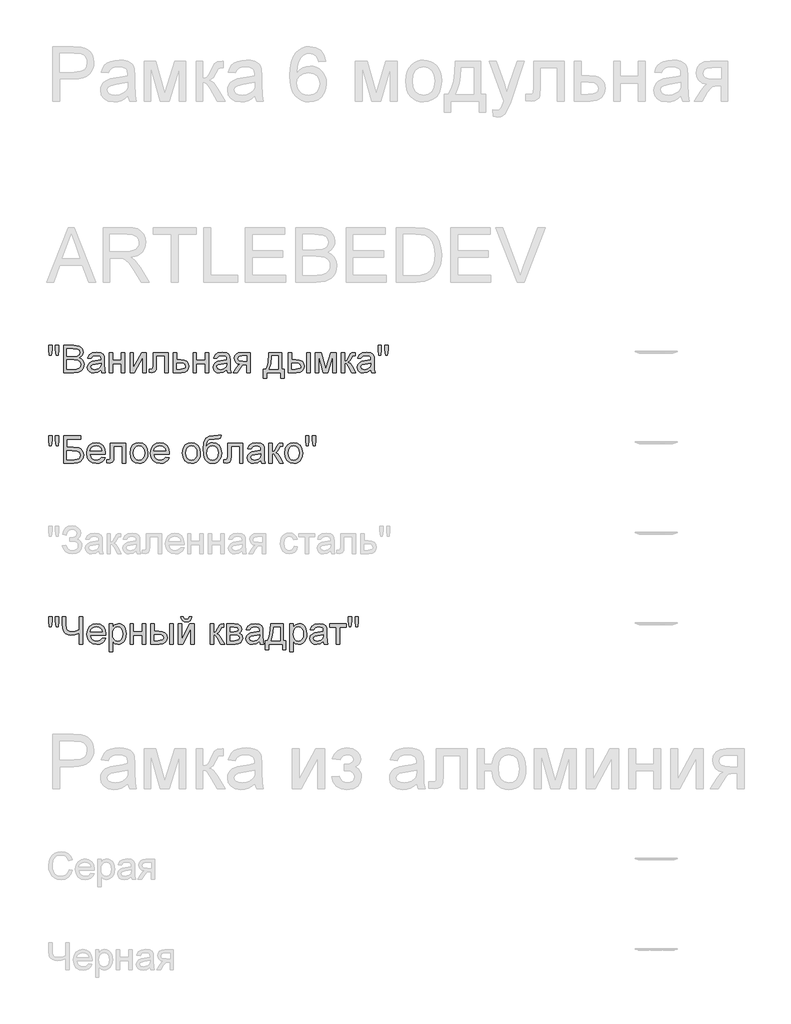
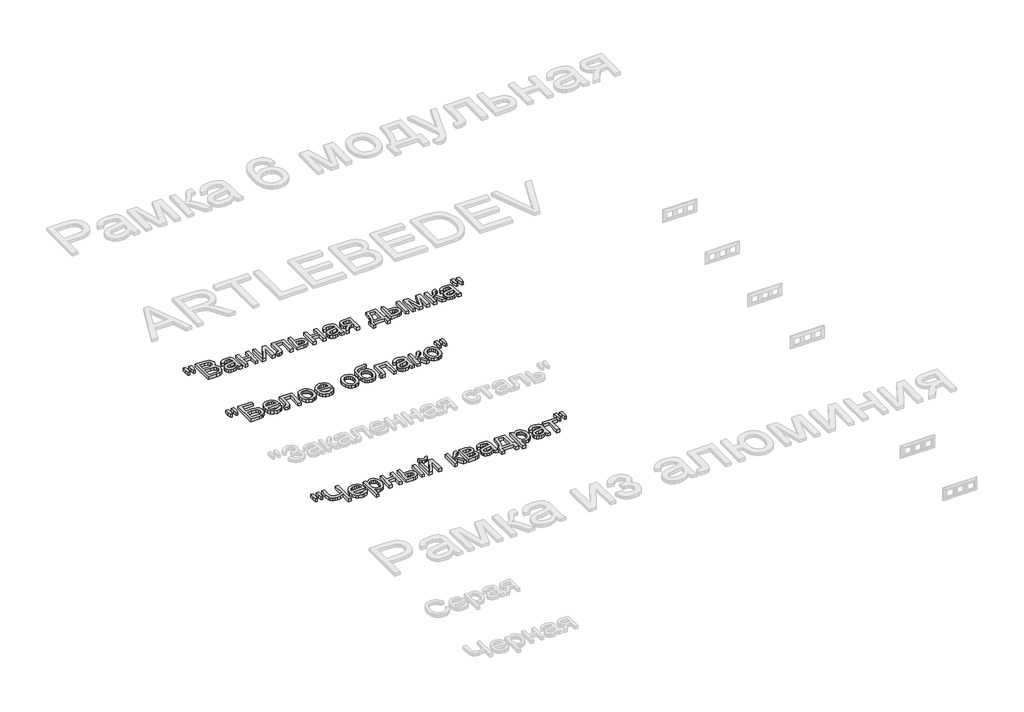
# One storey, part 128 of 168: 3 proxies.
"""IFC4 building model written with IfcOpenShell, lengths in millimetres."""

import ifcopenshell
import ifcopenshell.guid

model = None  # the IFC model being written
_history = None  # IfcOwnerHistory: only IFC2X3 demands one
_inside = {}  # id of a spatial element -> (the spatial element, [elements in it])
_under = {}  # id of a project, library or spatial element -> (it, [spatial elements below it])
_declared = {}  # id of a project -> (the project, [libraries it declares])
_typed = {}  # id of a type object -> (the type object, [elements of that type])
_made_of = {}  # id of a material, layer set ... -> (it, [elements and type objects made of it])


def new_model(schema):
    """Start an empty IFC model of exactly this schema.

    Asked for "IFC4X3", IfcOpenShell would pick the latest addendum, in which some entities
    have other attributes; the version numbers below select the first issue.
    IFC2X3 requires an IfcOwnerHistory on every rooted entity: one is made here for all.
    """
    global model, _history
    if schema == "IFC4X3":
        model = ifcopenshell.file(schema_version=(4, 3, 0, 0))
    else:
        model = ifcopenshell.file(schema=schema)
    _inside.clear()
    _under.clear()
    _declared.clear()
    _typed.clear()
    _made_of.clear()
    _history = None
    if model.schema == "IFC2X3":
        org = make("IfcOrganization", Name="unknown")
        user = make(
            "IfcPersonAndOrganization",
            ThePerson=make("IfcPerson", FamilyName="unknown"),
            TheOrganization=org,
        )
        app = make(
            "IfcApplication",
            ApplicationDeveloper=org,
            Version="unknown",
            ApplicationFullName="unknown",
            ApplicationIdentifier="unknown",
        )
        _history = make(
            "IfcOwnerHistory",
            OwningUser=user,
            OwningApplication=app,
            ChangeAction="ADDED",
            CreationDate=0,
        )
    return model


def make(cls, **values):
    """One entity of the class cls with the attributes given. An attribute that is None is left unset."""
    return model.create_entity(
        cls, **{name: value for name, value in values.items() if value is not None}
    )


def rooted(cls, **values):
    """An entity with a GlobalId (a new one), such as an element, a storey or a relation."""
    return make(cls, GlobalId=ifcopenshell.guid.new(), OwnerHistory=_history, **values)


def si_unit(unit_type, name, prefix=None):
    """IfcSIUnit, for example si_unit("LENGTHUNIT", "METRE", prefix="MILLI")."""
    return make("IfcSIUnit", UnitType=unit_type, Prefix=prefix, Name=name)


def assignment(units):
    """IfcUnitAssignment: the units of a project."""
    return None if units is None else make("IfcUnitAssignment", Units=units)


def point(xyz):
    """IfcCartesianPoint."""
    return None if xyz is None else make("IfcCartesianPoint", Coordinates=xyz)


def direction(xyz):
    """IfcDirection."""
    return None if xyz is None else make("IfcDirection", DirectionRatios=xyz)


def frame(location, z_axis=None, x_axis=None):
    """IfcAxis2Placement3D, a coordinate frame: its origin and axes. An axis left out is left unset."""
    return make(
        "IfcAxis2Placement3D",
        Location=point(location),
        Axis=direction(z_axis),
        RefDirection=direction(x_axis),
    )


def origin():
    """The frame at (0, 0, 0) with its axes left unset."""
    return frame((0.0, 0.0, 0.0))


def origin_with_axes():
    """The frame at (0, 0, 0) with the z axis (0, 0, 1) and the x axis (1, 0, 0) written out."""
    return frame((0.0, 0.0, 0.0), z_axis=(0.0, 0.0, 1.0), x_axis=(1.0, 0.0, 0.0))


def place(relative_to, where):
    """IfcLocalPlacement: puts the frame where relative to a parent placement (None: the world)."""
    return make(
        "IfcLocalPlacement", PlacementRelTo=relative_to, RelativePlacement=where
    )


def context(
    kind, dimensions, precision=None, world=None, true_north=None, identifier=None
):
    """IfcGeometricRepresentationContext, for example the 3D "Model" context."""
    return make(
        "IfcGeometricRepresentationContext",
        ContextIdentifier=identifier,
        ContextType=kind,
        CoordinateSpaceDimension=dimensions,
        Precision=precision,
        WorldCoordinateSystem=world,
        TrueNorth=true_north,
    )


def project(units=None, contexts=None):
    """IfcProject with its units and contexts."""
    return rooted(
        "IfcProject",
        Name="project",
        RepresentationContexts=contexts,
        UnitsInContext=assignment(units),
    )


def spatial(cls, under=None, at=None, **own):
    """A site, building, storey or space (cls), placed at a placement, below another one or the project."""
    s = rooted(cls, ObjectPlacement=at, **own)
    if under is not None:
        _under.setdefault(under.id(), (under, []))[1].append(s)
    return s


def polyline(points):
    """IfcPolyline through the points."""
    return make("IfcPolyline", Points=[point(p) for p in points])


def outline(outer, holes=None, kind="AREA"):
    """IfcArbitraryClosedProfileDef: a profile drawn as a closed curve; with holes, ...WithVoids."""
    if holes is None:
        return make("IfcArbitraryClosedProfileDef", ProfileType=kind, OuterCurve=outer)
    return make(
        "IfcArbitraryProfileDefWithVoids",
        ProfileType=kind,
        OuterCurve=outer,
        InnerCurves=holes,
    )


def extrude(swept, where, along, depth):
    """IfcExtrudedAreaSolid: the profile swept, set in the frame where, extruded along a direction by depth."""
    return make(
        "IfcExtrudedAreaSolid",
        SweptArea=swept,
        Position=where,
        ExtrudedDirection=direction(along),
        Depth=depth,
    )


def shape(context_of_items, identifier, shape_type, items):
    """IfcShapeRepresentation: the items that make up one representation, for example the "Body"."""
    return make(
        "IfcShapeRepresentation",
        ContextOfItems=context_of_items,
        RepresentationIdentifier=identifier,
        RepresentationType=shape_type,
        Items=items,
    )


def made_of(thing, what):
    """Note that an element or type object is made of a material, layer set ...; save() writes the relation."""
    if what is not None:
        _made_of.setdefault(what.id(), (what, []))[1].append(thing)
    return thing


def element(
    cls,
    number,
    at=None,
    inside=None,
    cuts=None,
    type_object=None,
    material=None,
    context=None,
    identifier="Body",
    shape_type=None,
    held_by="IfcProductDefinitionShape",
    body=None,
    shapes=None,
    **own,
):
    """One element of the class cls, such as IfcWall. Its Tag is "e" and its number.

    at: its placement. inside: the storey or other place that contains it. cuts: it is an
    opening in that element (IfcRelVoidsElement). A single representation is given by context,
    identifier, shape_type and body (its items); several are given by shapes. held_by: the class
    of the entity that holds the representations. save() writes the other relations.
    """
    e = rooted(cls, Tag="e%d" % number, ObjectPlacement=at, **own)
    if body is not None:
        shapes = [shape(context, identifier, shape_type, body)]
    if shapes is not None:
        e.Representation = make(held_by, Representations=shapes)
    if inside is not None:
        _inside.setdefault(inside.id(), (inside, []))[1].append(e)
    if cuts is not None:
        rooted(
            "IfcRelVoidsElement", RelatingBuildingElement=cuts, RelatedOpeningElement=e
        )
    if type_object is not None:
        _typed.setdefault(type_object.id(), (type_object, []))[1].append(e)
    return made_of(e, material)


def aggregate(whole, parts):
    """IfcRelAggregates: a whole, such as a stair, and the parts it consists of."""
    return rooted("IfcRelAggregates", RelatingObject=whole, RelatedObjects=parts)


def save(model, path):
    """Write the relations noted so far, then the file.

    IfcRelAggregates (storeys below a building ...), IfcRelContainedInSpatialStructure (elements
    in a storey), IfcRelDefinesByType, IfcRelAssociatesMaterial and IfcRelDeclares: one each for
    every whole, place, type object, material and project.
    """
    for whole, parts in _under.values():
        aggregate(whole, parts)
    for where, things in _inside.values():
        rooted(
            "IfcRelContainedInSpatialStructure",
            RelatedElements=things,
            RelatingStructure=where,
        )
    for kind, things in _typed.values():
        rooted("IfcRelDefinesByType", RelatedObjects=things, RelatingType=kind)
    for what, things in _made_of.values():
        rooted("IfcRelAssociatesMaterial", RelatedObjects=things, RelatingMaterial=what)
    for by, libraries in _declared.values():
        rooted("IfcRelDeclares", RelatingContext=by, RelatedDefinitions=libraries)
    model.write(path)


model = new_model("IFC4")

# Units and contexts
model_context = context("Model", 3, world=origin())
ifc_project = project(units=[si_unit("LENGTHUNIT", "METRE", prefix="MILLI")], contexts=[model_context])

# Site, building, storey
site = spatial("IfcSite", under=ifc_project)
building = spatial("IfcBuilding", under=site)
storey = spatial("IfcBuildingStorey", under=building, Name="Этаж 01", Elevation=0.0)

# Proxies
placement = place(None, origin())
element("IfcBuildingElementProxy", 1, Name="150", ObjectType="150", at=placement, inside=storey, context=model_context, shape_type="SweptSolid", body=[
    extrude(outline(polyline([(47680.1485789, -6451.873446), (47675.550054, -6422.7739802), (47675.550054, -6397.7212163), (47694.3856121, -6397.7212163), (47694.3856121, -6422.7739802), (47690.2653338, -6451.873446), (47680.1485789, -6451.873446)])), origin_with_axes(), (0.0, 0.0, 1.0), 20.0),
    extrude(outline(polyline([(47717.7093306, -6451.873446), (47713.2211703, -6422.7739802), (47713.2211703, -6397.7212163), (47732.0567284, -6397.7212163), (47732.0567284, -6422.7739802), (47727.6421445, -6451.873446), (47717.7093306, -6451.873446)])), origin_with_axes(), (0.0, 0.0, 1.0), 20.0),
    extrude(outline(polyline([(47757.9556209, -6548.4056816), (47757.9556209, -6397.7212163), (47815.4555767, -6397.7212163), (47843.6169435, -6402.1541944), (47853.0807078, -6407.7781904), (47860.2452096, -6415.7842223), (47866.2600803, -6435.0612389), (47861.2017028, -6452.6643923), (47845.9162059, -6466.0001146), (47856.5893823, -6471.5735269), (47864.4758526, -6480.0532069), (47869.3456905, -6490.8781346), (47870.9689698, -6503.48729), (47866.5359918, -6523.7391938), (47855.5547142, -6538.160168), (47839.1655713, -6545.8121135), (47815.0141183, -6548.4056816), (47757.9556209, -6548.4056816)]), holes=[polyline([(47776.791179, -6458.9367803), (47811.1881456, -6458.9367803), (47831.2745025, -6457.3180996), (47843.3594261, -6450.3467358), (47847.4245221, -6438.0778712), (47843.6353376, -6425.7906126), (47832.7828187, -6418.5249432), (47808.5761834, -6416.5567745), (47776.791179, -6416.5567745), (47776.791179, -6458.9367803)]), polyline([(47776.791179, -6529.5701234), (47815.4187885, -6529.5701234), (47829.3983043, -6528.8343594), (47841.2257105, -6524.7324752), (47849.061597, -6516.3631598), (47852.1334117, -6503.671231), (47848.5281681, -6489.0295275), (47836.8479148, -6480.2923302), (47813.5793786, -6477.7723385), (47776.791179, -6477.7723385), (47776.791179, -6529.5701234)])]), origin_with_axes(), (0.0, 0.0, 1.0), 20.0),
    extrude(outline(polyline([(47965.1467606, -6534.279013), (47946.8814195, -6547.0445182), (47926.7030921, -6550.7601263), (47910.9623412, -6548.5252432), (47899.3510657, -6541.8205939), (47892.1911624, -6531.6394596), (47889.804528, -6518.975122), (47893.4097715, -6504.0759012), (47902.8827329, -6493.2601705), (47916.0713024, -6487.079753), (47932.3684748, -6484.2470616), (47965.036396, -6477.7723385), (47965.1467606, -6473.5784838), (47963.8499765, -6465.1723802), (47959.9596244, -6459.6725443), (47951.2592153, -6455.5890542), (47939.1375035, -6454.2278908), (47920.0812162, -6457.8515285), (47910.9945309, -6470.7090042), (47892.1589727, -6468.3545594), (47900.3075589, -6449.9604597), (47916.7150959, -6439.1815172), (47941.5655247, -6435.3923327), (47964.3926025, -6438.7400588), (47977.2868664, -6447.1461624), (47983.0626137, -6459.9300617), (47983.9823187, -6476.4111751), (47983.9823187, -6499.8452582), (47984.9388119, -6532.5683617), (47988.6912083, -6548.4056816), (47969.8556501, -6548.4056816), (47965.1467606, -6534.279013)]), holes=[polyline([(47965.1467606, -6496.6078966), (47934.7597078, -6502.383644), (47918.5545059, -6505.4370645), (47911.2152601, -6510.4034715), (47908.6400861, -6517.6507468), (47914.2502865, -6527.841078), (47930.7130058, -6531.9245682), (47949.7692932, -6527.4180137), (47962.0565518, -6516.5103126), (47965.036396, -6501.9421856), (47965.1467606, -6496.6078966)])]), origin_with_axes(), (0.0, 0.0, 1.0), 20.0),
    extrude(outline(polyline([(48009.8812112, -6437.7467774), (48028.7167693, -6437.7467774), (48028.7167693, -6480.1267833), (48078.1601095, -6480.1267833), (48078.1601095, -6437.7467774), (48096.9956676, -6437.7467774), (48096.9956676, -6548.4056816), (48078.1601095, -6548.4056816), (48078.1601095, -6498.9623414), (48028.7167693, -6498.9623414), (48028.7167693, -6548.4056816), (48009.8812112, -6548.4056816), (48009.8812112, -6437.7467774)])), origin_with_axes(), (0.0, 0.0, 1.0), 20.0),
    extrude(outline(polyline([(48125.2490049, -6437.7467774), (48144.084563, -6437.7467774), (48144.084563, -6522.1389071), (48190.364118, -6437.7467774), (48214.7179061, -6437.7467774), (48214.7179061, -6548.4056816), (48195.8823479, -6548.4056816), (48195.8823479, -6464.5285867), (48149.8970985, -6548.4056816), (48125.2490049, -6548.4056816), (48125.2490049, -6437.7467774)])), origin_with_axes(), (0.0, 0.0, 1.0), 20.0),
    extrude(outline(polyline([(48252.3890224, -6437.7467774), (48337.1490341, -6437.7467774), (48337.1490341, -6548.295317), (48318.3134759, -6548.295317), (48318.3134759, -6456.5823356), (48271.2245806, -6456.5823356), (48271.2245806, -6509.3734019), (48269.9553877, -6533.72719), (48262.9840239, -6544.0094917), (48246.5029105, -6548.4056816), (48231.1990195, -6547.4491884), (48231.1990195, -6529.5701234), (48239.6235172, -6529.5701234), (48248.1399854, -6528.4112951), (48251.5428938, -6524.7324752), (48252.3890224, -6508.3065441), (48252.3890224, -6437.7467774)])), origin_with_axes(), (0.0, 0.0, 1.0), 20.0),
    extrude(outline(polyline([(48365.4023713, -6437.7467774), (48384.2379295, -6437.7467774), (48384.2379295, -6477.7723385), (48405.9429672, -6477.7723385), (48424.7601312, -6480.1313818), (48438.6844648, -6487.2085117), (48447.2929034, -6498.433511), (48450.162383, -6513.2361628), (48447.7205663, -6526.7144394), (48440.395116, -6538.0865916), (48427.6985887, -6545.8259091), (48409.1435405, -6548.4056816), (48365.4023713, -6548.4056816), (48365.4023713, -6437.7467774)]), holes=[polyline([(48384.2379295, -6529.5701234), (48401.8226888, -6529.5701234), (48424.539402, -6525.615392), (48429.6299692, -6520.552416), (48431.3268249, -6513.272951), (48426.3052356, -6501.6846682), (48418.2348244, -6497.8770895), (48404.066769, -6496.6078966), (48384.2379295, -6496.6078966), (48384.2379295, -6529.5701234)])]), origin_with_axes(), (0.0, 0.0, 1.0), 20.0),
    extrude(outline(polyline([(48473.7068307, -6437.7467774), (48492.5423889, -6437.7467774), (48492.5423889, -6480.1267833), (48541.985729, -6480.1267833), (48541.985729, -6437.7467774), (48560.8212872, -6437.7467774), (48560.8212872, -6548.4056816), (48541.985729, -6548.4056816), (48541.985729, -6498.9623414), (48492.5423889, -6498.9623414), (48492.5423889, -6548.4056816), (48473.7068307, -6548.4056816), (48473.7068307, -6437.7467774)])), origin_with_axes(), (0.0, 0.0, 1.0), 20.0),
    extrude(outline(polyline([(48659.7079675, -6534.279013), (48641.4426264, -6547.0445182), (48621.264299, -6550.7601263), (48605.5235481, -6548.5252432), (48593.9122726, -6541.8205939), (48586.7523693, -6531.6394596), (48584.3657349, -6518.975122), (48587.9709784, -6504.0759012), (48597.4439398, -6493.2601705), (48610.6325093, -6487.079753), (48626.9296817, -6484.2470616), (48659.5976029, -6477.7723385), (48659.7079675, -6473.5784838), (48658.4111834, -6465.1723802), (48654.5208313, -6459.6725443), (48645.8204221, -6455.5890542), (48633.6987104, -6454.2278908), (48614.6424231, -6457.8515285), (48605.5557378, -6470.7090042), (48586.7201796, -6468.3545594), (48594.8687658, -6449.9604597), (48611.2763028, -6439.1815172), (48636.1267316, -6435.3923327), (48658.9538094, -6438.7400588), (48671.8480733, -6447.1461624), (48677.6238206, -6459.9300617), (48678.5435256, -6476.4111751), (48678.5435256, -6499.8452582), (48679.5000188, -6532.5683617), (48683.2524152, -6548.4056816), (48664.416857, -6548.4056816), (48659.7079675, -6534.279013)]), holes=[polyline([(48659.7079675, -6496.6078966), (48629.3209147, -6502.383644), (48613.1157128, -6505.4370645), (48605.776467, -6510.4034715), (48603.201293, -6517.6507468), (48608.8114934, -6527.841078), (48625.2742127, -6531.9245682), (48644.3305001, -6527.4180137), (48656.6177587, -6516.5103126), (48659.5976029, -6501.9421856), (48659.7079675, -6496.6078966)])]), origin_with_axes(), (0.0, 0.0, 1.0), 20.0),
    extrude(outline(polyline([(48789.2024298, -6437.7467774), (48789.2024298, -6548.4056816), (48770.3668716, -6548.4056816), (48770.3668716, -6506.0256757), (48760.1029639, -6506.0256757), (48746.1234481, -6508.4169087), (48732.9900609, -6524.4933519), (48717.9804755, -6548.4056816), (48696.2018614, -6548.4056816), (48715.1109959, -6518.1657816), (48723.4619172, -6507.3132627), (48731.1506509, -6502.4940086), (48718.2747811, -6498.5484742), (48709.224884, -6491.0528785), (48703.872201, -6481.0832765), (48702.0879733, -6469.7157228), (48704.5251915, -6456.8214589), (48711.8368462, -6446.6127335), (48723.7654199, -6439.9632664), (48740.0533952, -6437.7467774), (48789.2024298, -6437.7467774)]), holes=[polyline([(48770.3668716, -6456.5823356), (48745.5348369, -6456.5823356), (48732.7095509, -6457.672186), (48725.4300859, -6460.9417372), (48720.9235315, -6471.1504626), (48722.583599, -6478.32876), (48727.5638015, -6483.3089625), (48751.0898551, -6487.1901176), (48770.3668716, -6487.1901176), (48770.3668716, -6456.5823356)])]), origin_with_axes(), (0.0, 0.0, 1.0), 20.0),
    extrude(outline(polyline([(48892.7979996, -6437.7467774), (48963.4313427, -6437.7467774), (48963.4313427, -6529.5701234), (48977.5580113, -6529.5701234), (48977.5580113, -6579.0134636), (48958.7224531, -6579.0134636), (48958.7224531, -6548.4056816), (48881.0257758, -6548.4056816), (48881.0257758, -6579.0134636), (48862.1902176, -6579.0134636), (48862.1902176, -6529.5701234), (48873.9624415, -6529.5701234), (48882.5202964, -6514.105284), (48888.5121744, -6493.6464466), (48892.7979996, -6437.7467774)]), holes=[polyline([(48909.279113, -6456.5823356), (48904.864529, -6499.4957703), (48895.1524444, -6529.5701234), (48944.5957845, -6529.5701234), (48944.5957845, -6456.5823356), (48909.279113, -6456.5823356)])]), origin_with_axes(), (0.0, 0.0, 1.0), 20.0),
    extrude(outline(polyline([(49102.3435841, -6437.7467774), (49121.1791422, -6437.7467774), (49121.1791422, -6548.4056816), (49102.3435841, -6548.4056816), (49102.3435841, -6437.7467774)])), origin_with_axes(), (0.0, 0.0, 1.0), 20.0),
    extrude(outline(polyline([(48998.7480142, -6437.7467774), (49017.5835724, -6437.7467774), (49017.5835724, -6477.7723385), (49040.8705027, -6477.7723385), (49060.9982463, -6480.1313818), (49075.9112627, -6487.2085117), (49085.1405023, -6498.433511), (49088.2169154, -6513.2361628), (49085.637143, -6526.7144394), (49077.8978255, -6538.0865916), (49064.4931253, -6545.8259091), (49044.9172046, -6548.4056816), (48998.7480142, -6548.4056816), (48998.7480142, -6437.7467774)]), holes=[polyline([(49017.5835724, -6529.5701234), (49036.9341653, -6529.5701234), (49061.9133528, -6525.615392), (49067.5143562, -6520.552416), (49069.3813573, -6513.272951), (49063.8447333, -6501.6846682), (49054.9649816, -6497.8770895), (49039.3989747, -6496.6078966), (49017.5835724, -6496.6078966), (49017.5835724, -6529.5701234)])]), origin_with_axes(), (0.0, 0.0, 1.0), 20.0),
    extrude(outline(polyline([(49149.4324794, -6437.7467774), (49181.8428832, -6437.7467774), (49206.8220707, -6526.3327619), (49233.7510327, -6437.7467774), (49264.8002731, -6437.7467774), (49264.8002731, -6548.4056816), (49245.964715, -6548.4056816), (49245.964715, -6459.3046623), (49218.8886001, -6548.4056816), (49194.1669301, -6548.4056816), (49168.2680376, -6455.0372312), (49168.2680376, -6548.4056816), (49149.4324794, -6548.4056816), (49149.4324794, -6437.7467774)])), origin_with_axes(), (0.0, 0.0, 1.0), 20.0),
    extrude(outline(polyline([(49293.0536104, -6437.7467774), (49311.8891685, -6437.7467774), (49311.8891685, -6484.8356728), (49324.5075209, -6481.4511584), (49334.845005, -6461.7326835), (49343.4350496, -6444.7181412), (49351.0134187, -6439.1815172), (49364.7905994, -6437.7467774), (49368.395843, -6437.7467774), (49368.395843, -6456.6927002), (49363.3190714, -6456.5823356), (49354.1220216, -6458.5688983), (49347.6472984, -6470.9665216), (49340.0505352, -6484.3758203), (49329.4003515, -6490.9425139), (49341.2829399, -6498.2725627), (49352.9447992, -6513.7144094), (49373.1047325, -6548.4056816), (49351.6940004, -6548.4056816), (49331.9387373, -6514.4501734), (49322.0059234, -6500.0843815), (49311.8891685, -6496.6078966), (49311.8891685, -6548.4056816), (49293.0536104, -6548.4056816), (49293.0536104, -6437.7467774)])), origin_with_axes(), (0.0, 0.0, 1.0), 20.0),
    extrude(outline(polyline([(49455.5102994, -6534.279013), (49437.2449584, -6547.0445182), (49417.0666309, -6550.7601263), (49401.3258801, -6548.5252432), (49389.7146046, -6541.8205939), (49382.5547013, -6531.6394596), (49380.1680668, -6518.975122), (49383.7733104, -6504.0759012), (49393.2462717, -6493.2601705), (49406.4348413, -6487.079753), (49422.7320137, -6484.2470616), (49455.3999348, -6477.7723385), (49455.5102994, -6473.5784838), (49454.2135154, -6465.1723802), (49450.3231633, -6459.6725443), (49441.6227541, -6455.5890542), (49429.5010424, -6454.2278908), (49410.444755, -6457.8515285), (49401.3580697, -6470.7090042), (49382.5225116, -6468.3545594), (49390.6710978, -6449.9604597), (49407.0786348, -6439.1815172), (49431.9290635, -6435.3923327), (49454.7561413, -6438.7400588), (49467.6504053, -6447.1461624), (49473.4261526, -6459.9300617), (49474.3458576, -6476.4111751), (49474.3458576, -6499.8452582), (49475.3023508, -6532.5683617), (49479.0547471, -6548.4056816), (49460.219189, -6548.4056816), (49455.5102994, -6534.279013)]), holes=[polyline([(49455.5102994, -6496.6078966), (49425.1232466, -6502.383644), (49408.9180447, -6505.4370645), (49401.5787989, -6510.4034715), (49399.003625, -6517.6507468), (49404.6138254, -6527.841078), (49421.0765447, -6531.9245682), (49440.132832, -6527.4180137), (49452.4200907, -6516.5103126), (49455.3999348, -6501.9421856), (49455.5102994, -6496.6078966)])]), origin_with_axes(), (0.0, 0.0, 1.0), 20.0),
    extrude(outline(polyline([(49500.1343854, -6451.873446), (49495.5358605, -6422.7739802), (49495.5358605, -6397.7212163), (49514.3714187, -6397.7212163), (49514.3714187, -6422.7739802), (49510.2511403, -6451.873446), (49500.1343854, -6451.873446)])), origin_with_axes(), (0.0, 0.0, 1.0), 20.0),
    extrude(outline(polyline([(49537.6951372, -6451.873446), (49533.2069768, -6422.7739802), (49533.2069768, -6397.7212163), (49552.042535, -6397.7212163), (49552.042535, -6422.7739802), (49547.627951, -6451.873446), (49537.6951372, -6451.873446)])), origin_with_axes(), (0.0, 0.0, 1.0), 20.0),
])
element("IfcBuildingElementProxy", 2, Name="150", ObjectType="150", at=placement, inside=storey, context=model_context, shape_type="SweptSolid", body=[
    extrude(outline(polyline([(47680.1485789, -6951.873446), (47675.550054, -6922.7739802), (47675.550054, -6897.7212163), (47694.3856121, -6897.7212163), (47694.3856121, -6922.7739802), (47690.2653338, -6951.873446), (47680.1485789, -6951.873446)])), origin_with_axes(), (0.0, 0.0, 1.0), 20.0),
    extrude(outline(polyline([(47717.7093306, -6951.873446), (47713.2211703, -6922.7739802), (47713.2211703, -6897.7212163), (47732.0567284, -6897.7212163), (47732.0567284, -6922.7739802), (47727.6421445, -6951.873446), (47717.7093306, -6951.873446)])), origin_with_axes(), (0.0, 0.0, 1.0), 20.0),
    extrude(outline(polyline([(47757.9556209, -6897.7212163), (47852.1334117, -6897.7212163), (47852.1334117, -6916.5567745), (47776.791179, -6916.5567745), (47776.791179, -6961.2912251), (47812.0710624, -6961.2912251), (47843.157091, -6965.1171979), (47853.5589544, -6970.6446248), (47861.6615553, -6979.5749603), (47866.8762826, -6991.0712726), (47868.614525, -7004.2966303), (47863.6665122, -7025.7625448), (47848.8960501, -7042.0781113), (47835.6247071, -7046.823789), (47815.4555767, -7048.4056816), (47757.9556209, -7048.4056816), (47757.9556209, -6897.7212163)]), holes=[polyline([(47776.791179, -7029.5701234), (47817.1478339, -7029.5701234), (47831.4124583, -7028.015822), (47841.6119866, -7023.3529177), (47847.7372218, -7015.5814105), (47849.7789669, -7004.7013005), (47845.1068655, -6989.9492325), (47832.102237, -6982.0765578), (47803.7201411, -6980.1267833), (47776.791179, -6980.1267833), (47776.791179, -7029.5701234)])]), origin_with_axes(), (0.0, 0.0, 1.0), 20.0),
    extrude(outline(polyline([(47969.6349209, -7015.4434548), (47988.1025971, -7017.7978996), (47981.4485315, -7031.713036), (47970.8305374, -7042.1148995), (47956.4877381, -7048.5988196), (47938.6592569, -7050.7601263), (47916.5587461, -7047.0307226), (47899.5534008, -7035.8425114), (47888.710079, -7017.9220597), (47885.0956384, -6993.9959345), (47888.7468672, -6969.2650674), (47899.7005536, -6950.7698), (47916.4759726, -6939.2366995), (47937.5923991, -6935.3923327), (47958.0512366, -6939.2275025), (47974.3989927, -6950.7330118), (47985.1181544, -6969.191491), (47988.6912083, -6993.8855699), (47988.5808437, -6998.9623414), (47903.9311966, -6998.9623414), (47907.1915508, -7013.0614189), (47914.7653213, -7023.4264941), (47925.6960151, -7029.8000497), (47939.0271389, -7031.9245682), (47957.4948151, -7027.9882308), (47969.6349209, -7015.4434548)]), holes=[polyline([(47903.9311966, -6980.1267833), (47969.8556501, -6980.1267833), (47967.3080673, -6970.1755753), (47962.3140692, -6963.0570587), (47951.3327917, -6956.4351828), (47937.5188227, -6954.2278908), (47924.8222954, -6955.9891259), (47914.3238629, -6961.272831), (47907.0260039, -6969.5087892), (47903.9311966, -6980.1267833)])]), origin_with_axes(), (0.0, 0.0, 1.0), 20.0),
    extrude(outline(polyline([(48016.9445455, -6937.7467774), (48101.7045572, -6937.7467774), (48101.7045572, -7048.295317), (48082.868999, -7048.295317), (48082.868999, -6956.5823356), (48035.7801036, -6956.5823356), (48035.7801036, -7009.3734019), (48034.5109108, -7033.72719), (48027.539547, -7044.0094917), (48011.0584336, -7048.4056816), (47995.7545426, -7047.4491884), (47995.7545426, -7029.5701234), (48004.1790403, -7029.5701234), (48012.6955084, -7028.4112951), (48016.0984169, -7024.7324752), (48016.9445455, -7008.3065441), (48016.9445455, -6937.7467774)])), origin_with_axes(), (0.0, 0.0, 1.0), 20.0),
    extrude(outline(polyline([(48125.2490049, -6993.0762295), (48129.323298, -6966.3955878), (48141.5461773, -6947.6428031), (48156.6477332, -6938.4549503), (48174.7291332, -6935.3923327), (48194.516586, -6939.1217364), (48210.3217163, -6950.3099476), (48220.6821929, -6968.0740494), (48224.1356852, -6991.5311251), (48222.6089749, -7010.5598213), (48218.0288441, -7025.0451749), (48210.5286499, -7035.8930952), (48200.2417496, -7044.0094917), (48188.0234688, -7049.0724677), (48174.7291332, -7050.7601263), (48154.7025571, -7047.0445182), (48138.915821, -7035.8976937), (48128.6657089, -7017.7611114), (48125.2490049, -6993.0762295)]), holes=[polyline([(48144.084563, -6993.0394413), (48146.2642638, -7010.0861732), (48152.8033663, -7022.2308776), (48162.6442097, -7029.5011455), (48174.7291332, -7031.9245682), (48186.7588745, -7029.48735), (48196.5813237, -7022.1756953), (48203.1204262, -7009.8700426), (48205.300127, -6992.4508301), (48203.1066306, -6975.9007388), (48196.5261414, -6963.9215814), (48186.6898966, -6956.6513134), (48174.7291332, -6954.2278908), (48162.6442097, -6956.6421164), (48152.8033663, -6963.8847932), (48146.2642638, -6976.0019064), (48144.084563, -6993.0394413)])]), origin_with_axes(), (0.0, 0.0, 1.0), 20.0),
    extrude(outline(polyline([(48322.8016363, -7015.4434548), (48341.2693124, -7017.7978996), (48334.6152469, -7031.713036), (48323.9972528, -7042.1148995), (48309.6544535, -7048.5988196), (48291.8259723, -7050.7601263), (48269.7254614, -7047.0307226), (48252.7201162, -7035.8425114), (48241.8767944, -7017.9220597), (48238.2623538, -6993.9959345), (48241.9135826, -6969.2650674), (48252.867269, -6950.7698), (48269.642688, -6939.2366995), (48290.7591145, -6935.3923327), (48311.217952, -6939.2275025), (48327.5657081, -6950.7330118), (48338.2848698, -6969.191491), (48341.8579236, -6993.8855699), (48341.747559, -6998.9623414), (48257.0979119, -6998.9623414), (48260.3582661, -7013.0614189), (48267.9320367, -7023.4264941), (48278.8627305, -7029.8000497), (48292.1938543, -7031.9245682), (48310.6615304, -7027.9882308), (48322.8016363, -7015.4434548)]), holes=[polyline([(48257.0979119, -6980.1267833), (48323.0223655, -6980.1267833), (48320.4747827, -6970.1755753), (48315.4807846, -6963.0570587), (48304.499507, -6956.4351828), (48290.6855381, -6954.2278908), (48277.9890107, -6955.9891259), (48267.4905783, -6961.272831), (48260.1927192, -6969.5087892), (48257.0979119, -6980.1267833)])]), origin_with_axes(), (0.0, 0.0, 1.0), 20.0),
    extrude(outline(polyline([(48414.8457115, -6993.0762295), (48418.9200046, -6966.3955878), (48431.1428839, -6947.6428031), (48446.2444398, -6938.4549503), (48464.3258398, -6935.3923327), (48484.1132926, -6939.1217364), (48499.9184229, -6950.3099476), (48510.2788995, -6968.0740494), (48513.7323918, -6991.5311251), (48512.2056815, -7010.5598213), (48507.6255507, -7025.0451749), (48500.1253565, -7035.8930952), (48489.8384562, -7044.0094917), (48477.6201754, -7049.0724677), (48464.3258398, -7050.7601263), (48444.2992637, -7047.0445182), (48428.5125276, -7035.8976937), (48418.2624155, -7017.7611114), (48414.8457115, -6993.0762295)]), holes=[polyline([(48433.6812696, -6993.0394413), (48435.8609704, -7010.0861732), (48442.4000729, -7022.2308776), (48452.2409163, -7029.5011455), (48464.3258398, -7031.9245682), (48476.3555811, -7029.48735), (48486.1780303, -7022.1756953), (48492.7171328, -7009.8700426), (48494.8968336, -6992.4508301), (48492.7033372, -6975.9007388), (48486.122848, -6963.9215814), (48476.2866032, -6956.6513134), (48464.3258398, -6954.2278908), (48452.2409163, -6956.6421164), (48442.4000729, -6963.8847932), (48435.8609704, -6976.0019064), (48433.6812696, -6993.0394413)])]), origin_with_axes(), (0.0, 0.0, 1.0), 20.0),
    extrude(outline(polyline([(48612.6190721, -6895.3667716), (48629.1001855, -6895.3667716), (48624.2441431, -6910.0636573), (48614.6424231, -6915.3795521), (48591.576222, -6916.5567745), (48560.5085875, -6920.897782), (48553.3808738, -6926.5447707), (48548.5892108, -6934.8037215), (48544.560903, -6959.4150269), (48560.8764695, -6941.3888092), (48570.7954878, -6936.8914518), (48581.9009255, -6935.3923327), (48601.4998388, -6939.2045098), (48617.401538, -6950.6410414), (48627.9413572, -6968.5798871), (48631.4546302, -6991.8990071), (48629.7117893, -7009.8792396), (48624.4832664, -7024.3094109), (48607.9469707, -7043.8623389), (48596.6529935, -7049.0356795), (48581.9009255, -7050.7601263), (48564.9001788, -7048.5390388), (48552.1576662, -7041.8757762), (48542.7812738, -7031.7498242), (48535.8788879, -7019.1406689), (48531.6298508, -7000.1533594), (48530.2135052, -6970.8929452), (48533.786559, -6934.7531377), (48544.5057207, -6912.7124076), (48562.6377045, -6901.4690142), (48588.449225, -6897.7212163), (48609.4184987, -6897.2981521), (48612.6190721, -6895.3667716)]), holes=[polyline([(48612.6190721, -6991.3103959), (48610.577327, -6976.48935), (48604.4520918, -6964.6205572), (48594.6112484, -6956.8260574), (48581.4226789, -6954.2278908), (48567.6730893, -6956.9732102), (48557.473561, -6965.2091684), (48551.1551877, -6978.0344544), (48549.0490633, -6994.5477575), (48551.3759169, -7010.5552228), (48558.3564778, -7022.304454), (48568.7491442, -7029.5195396), (48581.3123143, -7031.9245682), (48593.9398638, -7029.1424606), (48603.937057, -7020.7961378), (48610.4485683, -7007.8604872), (48612.6190721, -6991.3103959)])]), origin_with_axes(), (0.0, 0.0, 1.0), 20.0),
    extrude(outline(polyline([(48664.416857, -6937.7467774), (48749.1768687, -6937.7467774), (48749.1768687, -7048.295317), (48730.3413105, -7048.295317), (48730.3413105, -6956.5823356), (48683.2524152, -6956.5823356), (48683.2524152, -7009.3734019), (48681.9832223, -7033.72719), (48675.0118585, -7044.0094917), (48658.5307451, -7048.4056816), (48643.2268541, -7047.4491884), (48643.2268541, -7029.5701234), (48651.6513518, -7029.5701234), (48660.16782, -7028.4112951), (48663.5707284, -7024.7324752), (48664.416857, -7008.3065441), (48664.416857, -6937.7467774)])), origin_with_axes(), (0.0, 0.0, 1.0), 20.0),
    extrude(outline(polyline([(48848.063549, -7034.279013), (48829.7982079, -7047.0445182), (48809.6198805, -7050.7601263), (48793.8791296, -7048.5252432), (48782.2678542, -7041.8205939), (48775.1079508, -7031.6394596), (48772.7213164, -7018.975122), (48776.3265599, -7004.0759012), (48785.7995213, -6993.2601705), (48798.9880908, -6987.079753), (48815.2852632, -6984.2470616), (48847.9531844, -6977.7723385), (48848.063549, -6973.5784838), (48846.766765, -6965.1723802), (48842.8764129, -6959.6725443), (48834.1760037, -6955.5890542), (48822.0542919, -6954.2278908), (48802.9980046, -6957.8515285), (48793.9113193, -6970.7090042), (48775.0757612, -6968.3545594), (48783.2243473, -6949.9604597), (48799.6318843, -6939.1815172), (48824.4823131, -6935.3923327), (48847.3093909, -6938.7400588), (48860.2036548, -6947.1461624), (48865.9794022, -6959.9300617), (48866.8991071, -6976.4111751), (48866.8991071, -6999.8452582), (48867.8556003, -7032.5683617), (48871.6079967, -7048.4056816), (48852.7724385, -7048.4056816), (48848.063549, -7034.279013)]), holes=[polyline([(48848.063549, -6996.6078966), (48817.6764962, -7002.383644), (48801.4712943, -7005.4370645), (48794.1320485, -7010.4034715), (48791.5568745, -7017.6507468), (48797.167075, -7027.841078), (48813.6297942, -7031.9245682), (48832.6860816, -7027.4180137), (48844.9733402, -7016.5103126), (48847.9531844, -7001.9421856), (48848.063549, -6996.6078966)])]), origin_with_axes(), (0.0, 0.0, 1.0), 20.0),
    extrude(outline(polyline([(48892.7979996, -6937.7467774), (48911.6335578, -6937.7467774), (48911.6335578, -6984.8356728), (48924.2519102, -6981.4511584), (48934.5893943, -6961.7326835), (48943.1794388, -6944.7181412), (48950.7578079, -6939.1815172), (48964.5349887, -6937.7467774), (48968.1402322, -6937.7467774), (48968.1402322, -6956.6927002), (48963.0634607, -6956.5823356), (48953.8664108, -6958.5688983), (48947.3916877, -6970.9665216), (48939.7949245, -6984.3758203), (48929.1447407, -6990.9425139), (48941.0273292, -6998.2725627), (48952.6891884, -7013.7144094), (48972.8491218, -7048.4056816), (48951.4383896, -7048.4056816), (48931.6831265, -7014.4501734), (48921.7503126, -7000.0843815), (48911.6335578, -6996.6078966), (48911.6335578, -7048.4056816), (48892.7979996, -7048.4056816), (48892.7979996, -6937.7467774)])), origin_with_axes(), (0.0, 0.0, 1.0), 20.0),
    extrude(outline(polyline([(48979.9124561, -6993.0762295), (48983.9867492, -6966.3955878), (48996.2096285, -6947.6428031), (49011.3111844, -6938.4549503), (49029.3925844, -6935.3923327), (49049.1800372, -6939.1217364), (49064.9851674, -6950.3099476), (49075.3456441, -6968.0740494), (49078.7991364, -6991.5311251), (49077.2724261, -7010.5598213), (49072.6922952, -7025.0451749), (49065.1921011, -7035.8930952), (49054.9052008, -7044.0094917), (49042.68692, -7049.0724677), (49029.3925844, -7050.7601263), (49009.3660083, -7047.0445182), (48993.5792722, -7035.8976937), (48983.3291601, -7017.7611114), (48979.9124561, -6993.0762295)]), holes=[polyline([(48998.7480142, -6993.0394413), (49000.927715, -7010.0861732), (49007.4668175, -7022.2308776), (49017.3076609, -7029.5011455), (49029.3925844, -7031.9245682), (49041.4223257, -7029.48735), (49051.2447749, -7022.1756953), (49057.7838774, -7009.8700426), (49059.9635782, -6992.4508301), (49057.7700818, -6975.9007388), (49051.1895926, -6963.9215814), (49041.3533478, -6956.6513134), (49029.3925844, -6954.2278908), (49017.3076609, -6956.6421164), (49007.4668175, -6963.8847932), (49000.927715, -6976.0019064), (48998.7480142, -6993.0394413)])]), origin_with_axes(), (0.0, 0.0, 1.0), 20.0),
    extrude(outline(polyline([(49099.8787747, -6951.873446), (49095.2802498, -6922.7739802), (49095.2802498, -6897.7212163), (49114.1158079, -6897.7212163), (49114.1158079, -6922.7739802), (49109.9955296, -6951.873446), (49099.8787747, -6951.873446)])), origin_with_axes(), (0.0, 0.0, 1.0), 20.0),
    extrude(outline(polyline([(49137.4395264, -6951.873446), (49132.9513661, -6922.7739802), (49132.9513661, -6897.7212163), (49151.7869242, -6897.7212163), (49151.7869242, -6922.7739802), (49147.3723403, -6951.873446), (49137.4395264, -6951.873446)])), origin_with_axes(), (0.0, 0.0, 1.0), 20.0),
])
element("IfcBuildingElementProxy", 3, Name="150", ObjectType="150", at=placement, inside=storey, context=model_context, shape_type="SweptSolid", body=[
    extrude(outline(polyline([(47680.1485789, -7951.873446), (47675.550054, -7922.7739802), (47675.550054, -7897.7212163), (47694.3856121, -7897.7212163), (47694.3856121, -7922.7739802), (47690.2653338, -7951.873446), (47680.1485789, -7951.873446)])), origin_with_axes(), (0.0, 0.0, 1.0), 20.0),
    extrude(outline(polyline([(47717.7093306, -7951.873446), (47713.2211703, -7922.7739802), (47713.2211703, -7897.7212163), (47732.0567284, -7897.7212163), (47732.0567284, -7922.7739802), (47727.6421445, -7951.873446), (47717.7093306, -7951.873446)])), origin_with_axes(), (0.0, 0.0, 1.0), 20.0),
    extrude(outline(polyline([(47863.9056355, -8048.4056816), (47845.0700773, -8048.4056816), (47845.0700773, -7988.0730344), (47820.0908899, -7996.2400147), (47798.4226404, -7998.9623414), (47783.7395502, -7997.0999388), (47770.886673, -7991.512731), (47760.926268, -7983.0606422), (47754.9205944, -7972.6035965), (47750.8922866, -7942.6028198), (47750.8922866, -7897.7212163), (47769.7278447, -7897.7212163), (47769.7278447, -7940.064434), (47771.990319, -7960.4313009), (47778.7777418, -7972.3828673), (47788.7381468, -7978.1908043), (47800.5195677, -7980.1267833), (47822.2521966, -7977.7907326), (47845.0700773, -7970.7825806), (47845.0700773, -7897.7212163), (47863.9056355, -7897.7212163), (47863.9056355, -8048.4056816)])), origin_with_axes(), (0.0, 0.0, 1.0), 20.0),
    extrude(outline(polyline([(47971.9893657, -8015.4434548), (47990.4570418, -8017.7978996), (47983.8029763, -8031.713036), (47973.1849822, -8042.1148995), (47958.8421829, -8048.5988196), (47941.0137017, -8050.7601263), (47918.9131908, -8047.0307226), (47901.9078456, -8035.8425114), (47891.0645238, -8017.9220597), (47887.4500832, -7993.9959345), (47891.101312, -7969.2650674), (47902.0549984, -7950.7698), (47918.8304174, -7939.2366995), (47939.9468439, -7935.3923327), (47960.4056814, -7939.2275025), (47976.7534375, -7950.7330118), (47987.4725992, -7969.191491), (47991.045653, -7993.8855699), (47990.9352884, -7998.9623414), (47906.2856413, -7998.9623414), (47909.5459955, -8013.0614189), (47917.1197661, -8023.4264941), (47928.0504599, -8029.8000497), (47941.3815837, -8031.9245682), (47959.8492598, -8027.9882308), (47971.9893657, -8015.4434548)]), holes=[polyline([(47906.2856413, -7980.1267833), (47972.2100949, -7980.1267833), (47969.6625121, -7970.1755753), (47964.668514, -7963.0570587), (47953.6872364, -7956.4351828), (47939.8732675, -7954.2278908), (47927.1767401, -7955.9891259), (47916.6783077, -7961.272831), (47909.3804486, -7969.5087892), (47906.2856413, -7980.1267833)])]), origin_with_axes(), (0.0, 0.0, 1.0), 20.0),
    extrude(outline(polyline([(48009.8812112, -8090.7856874), (48009.8812112, -7937.7467774), (48028.7167693, -7937.7467774), (48028.7167693, -7956.2144536), (48041.739792, -7940.5978629), (48059.3245513, -7935.3923327), (48072.0624654, -7937.2133485), (48083.2000928, -7942.6763962), (48092.268384, -7951.4503817), (48098.7982894, -7963.2042115), (48104.0590019, -7992.2301009), (48102.5736784, -8008.3387338), (48098.1177077, -8022.7459124), (48090.8336442, -8034.7204713), (48080.8640422, -8043.5312451), (48069.2527667, -8048.952906), (48057.043683, -8050.7601263), (48040.6545401, -8045.9224781), (48028.7167693, -8033.6904018), (48028.7167693, -8090.7856874), (48009.8812112, -8090.7856874)]), holes=[polyline([(48028.7167693, -7993.9591463), (48030.7539159, -8010.8449299), (48036.8653555, -8022.6539419), (48045.8830629, -8029.6069116), (48056.6390128, -8031.9245682), (48067.5697066, -8029.5241382), (48076.8173402, -8022.3228481), (48083.1219179, -8010.0815747), (48085.2234438, -7992.5611947), (48083.1725017, -7975.7673816), (48077.0196753, -7963.7928227), (48068.0157635, -7956.6191238), (48057.411565, -7954.2278908), (48046.7659797, -7956.7708751), (48037.4171785, -7964.399828), (48030.8918716, -7976.8756261), (48028.7167693, -7993.9591463)])]), origin_with_axes(), (0.0, 0.0, 1.0), 20.0),
    extrude(outline(polyline([(48125.2490049, -7937.7467774), (48144.084563, -7937.7467774), (48144.084563, -7980.1267833), (48193.5279032, -7980.1267833), (48193.5279032, -7937.7467774), (48212.3634613, -7937.7467774), (48212.3634613, -8048.4056816), (48193.5279032, -8048.4056816), (48193.5279032, -7998.9623414), (48144.084563, -7998.9623414), (48144.084563, -8048.4056816), (48125.2490049, -8048.4056816), (48125.2490049, -7937.7467774)])), origin_with_axes(), (0.0, 0.0, 1.0), 20.0),
    extrude(outline(polyline([(48344.2123684, -7937.7467774), (48363.0479266, -7937.7467774), (48363.0479266, -8048.4056816), (48344.2123684, -8048.4056816), (48344.2123684, -7937.7467774)])), origin_with_axes(), (0.0, 0.0, 1.0), 20.0),
    extrude(outline(polyline([(48240.6167986, -7937.7467774), (48259.4523567, -7937.7467774), (48259.4523567, -7977.7723385), (48282.739287, -7977.7723385), (48302.8670307, -7980.1313818), (48317.780047, -7987.2085117), (48327.0092866, -7998.433511), (48330.0856998, -8013.2361628), (48327.5059273, -8026.7144394), (48319.7666098, -8038.0865916), (48306.3619096, -8045.8259091), (48286.785989, -8048.4056816), (48240.6167986, -8048.4056816), (48240.6167986, -7937.7467774)]), holes=[polyline([(48259.4523567, -8029.5701234), (48278.8029497, -8029.5701234), (48303.7821371, -8025.615392), (48309.3831405, -8020.552416), (48311.2501416, -8013.272951), (48305.7135176, -8001.6846682), (48296.8337659, -7997.8770895), (48281.267759, -7996.6078966), (48259.4523567, -7996.6078966), (48259.4523567, -8029.5701234)])]), origin_with_axes(), (0.0, 0.0, 1.0), 20.0),
    extrude(outline(polyline([(48391.3012638, -7937.7467774), (48410.1368219, -7937.7467774), (48410.1368219, -8022.1389071), (48456.4163769, -7937.7467774), (48480.770165, -7937.7467774), (48480.770165, -8048.4056816), (48461.9346069, -8048.4056816), (48461.9346069, -7964.5285867), (48415.9493575, -8048.4056816), (48391.3012638, -8048.4056816), (48391.3012638, -7937.7467774)])), origin_with_axes(), (0.0, 0.0, 1.0), 20.0),
    extrude(outline(polyline([(48452.5168278, -7897.7212163), (48466.6434964, -7897.7212163), (48463.6038714, -7909.7831473), (48457.5016288, -7918.672096), (48448.6126801, -7924.1489392), (48437.2129368, -7925.9745536), (48424.8429047, -7924.1627347), (48415.2503817, -7918.7272783), (48408.6928851, -7909.8521251), (48405.4279324, -7897.7212163), (48419.554601, -7897.7212163), (48424.8521017, -7908.3346119), (48435.5206796, -7911.847885), (48447.219327, -7908.4449765), (48452.5168278, -7897.7212163)])), origin_with_axes(), (0.0, 0.0, 1.0), 20.0),
    extrude(outline(polyline([(48567.8846215, -7937.7467774), (48586.7201796, -7937.7467774), (48586.7201796, -7984.8356728), (48599.3385321, -7981.4511584), (48609.6760161, -7961.7326835), (48618.2660607, -7944.7181412), (48625.8444298, -7939.1815172), (48639.6216105, -7937.7467774), (48643.2268541, -7937.7467774), (48643.2268541, -7956.6927002), (48638.1500825, -7956.5823356), (48628.9530327, -7958.5688983), (48622.4783096, -7970.9665216), (48614.8815464, -7984.3758203), (48604.2313626, -7990.9425139), (48616.113951, -7998.2725627), (48627.7758103, -8013.7144094), (48647.9357436, -8048.4056816), (48626.5250115, -8048.4056816), (48606.7697484, -8014.4501734), (48596.8369345, -8000.0843815), (48586.7201796, -7996.6078966), (48586.7201796, -8048.4056816), (48567.8846215, -8048.4056816), (48567.8846215, -7937.7467774)])), origin_with_axes(), (0.0, 0.0, 1.0), 20.0),
    extrude(outline(polyline([(48659.7079675, -7937.7467774), (48701.2050565, -7937.7467774), (48723.9585579, -7940.2667691), (48736.7608514, -7949.5006072), (48742.1135344, -7965.5954445), (48738.8761728, -7978.6736494), (48729.1273, -7987.999458), (48741.7824406, -7998.2081833), (48746.8224239, -8015.9584896), (48743.6310476, -8030.3150845), (48736.0434815, -8040.4226423), (48724.0321343, -8046.4099217), (48707.569415, -8048.4056816), (48659.7079675, -8048.4056816), (48659.7079675, -7937.7467774)]), holes=[polyline([(48678.5435256, -7980.1267833), (48697.1583546, -7980.1267833), (48712.5174279, -7979.1702901), (48719.9854324, -7975.3443173), (48723.2779762, -7968.4281358), (48721.8340394, -7962.8087383), (48717.5022289, -7959.1942977), (48697.7469658, -7956.5823356), (48678.5435256, -7956.5823356), (48678.5435256, -7980.1267833)]), polyline([(48678.5435256, -8029.5701234), (48701.6465149, -8029.5701234), (48722.137542, -8026.167215), (48726.377382, -8021.5273033), (48727.9868658, -8014.4133852), (48724.7678983, -8005.345094), (48716.3801888, -8000.0659874), (48699.8071049, -7998.9623414), (48678.5435256, -7998.9623414), (48678.5435256, -8029.5701234)])]), origin_with_axes(), (0.0, 0.0, 1.0), 20.0),
    extrude(outline(polyline([(48841.0002147, -8034.279013), (48822.7348736, -8047.0445182), (48802.5565462, -8050.7601263), (48786.8157953, -8048.5252432), (48775.2045198, -8041.8205939), (48768.0446165, -8031.6394596), (48765.6579821, -8018.975122), (48769.2632256, -8004.0759012), (48778.736187, -7993.2601705), (48791.9247565, -7987.079753), (48808.2219289, -7984.2470616), (48840.8898501, -7977.7723385), (48841.0002147, -7973.5784838), (48839.7034307, -7965.1723802), (48835.8130786, -7959.6725443), (48827.1126694, -7955.5890542), (48814.9909576, -7954.2278908), (48795.9346703, -7957.8515285), (48786.847985, -7970.7090042), (48768.0124268, -7968.3545594), (48776.161013, -7949.9604597), (48792.56855, -7939.1815172), (48817.4189788, -7935.3923327), (48840.2460566, -7938.7400588), (48853.1403205, -7947.1461624), (48858.9160679, -7959.9300617), (48859.8357728, -7976.4111751), (48859.8357728, -7999.8452582), (48860.792266, -8032.5683617), (48864.5446624, -8048.4056816), (48845.7091042, -8048.4056816), (48841.0002147, -8034.279013)]), holes=[polyline([(48841.0002147, -7996.6078966), (48810.6131619, -8002.383644), (48794.40796, -8005.4370645), (48787.0687142, -8010.4034715), (48784.4935402, -8017.6507468), (48790.1037407, -8027.841078), (48806.5664599, -8031.9245682), (48825.6227473, -8027.4180137), (48837.9100059, -8016.5103126), (48840.8898501, -8001.9421856), (48841.0002147, -7996.6078966)])]), origin_with_axes(), (0.0, 0.0, 1.0), 20.0),
    extrude(outline(polyline([(48902.2157787, -7937.7467774), (48972.8491218, -7937.7467774), (48972.8491218, -8029.5701234), (48986.9757904, -8029.5701234), (48986.9757904, -8079.0134636), (48968.1402322, -8079.0134636), (48968.1402322, -8048.4056816), (48890.4435548, -8048.4056816), (48890.4435548, -8079.0134636), (48871.6079967, -8079.0134636), (48871.6079967, -8029.5701234), (48883.3802205, -8029.5701234), (48891.9380754, -8014.105284), (48897.9299534, -7993.6464466), (48902.2157787, -7937.7467774)]), holes=[polyline([(48918.6968921, -7956.5823356), (48914.2823081, -7999.4957703), (48904.5702235, -8029.5701234), (48954.0135636, -8029.5701234), (48954.0135636, -7956.5823356), (48918.6968921, -7956.5823356)])]), origin_with_axes(), (0.0, 0.0, 1.0), 20.0),
    extrude(outline(polyline([(49008.1657933, -8090.7856874), (49008.1657933, -7937.7467774), (49027.0013514, -7937.7467774), (49027.0013514, -7956.2144536), (49040.0243741, -7940.5978629), (49057.6091334, -7935.3923327), (49070.3470475, -7937.2133485), (49081.4846749, -7942.6763962), (49090.5529661, -7951.4503817), (49097.0828715, -7963.2042115), (49102.3435841, -7992.2301009), (49100.8582605, -8008.3387338), (49096.4022898, -8022.7459124), (49089.1182263, -8034.7204713), (49079.1486243, -8043.5312451), (49067.5373488, -8048.952906), (49055.3282651, -8050.7601263), (49038.9391222, -8045.9224781), (49027.0013514, -8033.6904018), (49027.0013514, -8090.7856874), (49008.1657933, -8090.7856874)]), holes=[polyline([(49027.0013514, -7993.9591463), (49029.038498, -8010.8449299), (49035.1499376, -8022.6539419), (49044.167645, -8029.6069116), (49054.9235949, -8031.9245682), (49065.8542887, -8029.5241382), (49075.1019223, -8022.3228481), (49081.4065, -8010.0815747), (49083.5080259, -7992.5611947), (49081.4570838, -7975.7673816), (49075.3042574, -7963.7928227), (49066.3003456, -7956.6191238), (49055.6961471, -7954.2278908), (49045.0505618, -7956.7708751), (49035.7017606, -7964.399828), (49029.1764537, -7976.8756261), (49027.0013514, -7993.9591463)])]), origin_with_axes(), (0.0, 0.0, 1.0), 20.0),
    extrude(outline(polyline([(49194.1669301, -8034.279013), (49175.901589, -8047.0445182), (49155.7232616, -8050.7601263), (49139.9825107, -8048.5252432), (49128.3712352, -8041.8205939), (49121.2113319, -8031.6394596), (49118.8246974, -8018.975122), (49122.429941, -8004.0759012), (49131.9029024, -7993.2601705), (49145.0914719, -7987.079753), (49161.3886443, -7984.2470616), (49194.0565655, -7977.7723385), (49194.1669301, -7973.5784838), (49192.870146, -7965.1723802), (49188.9797939, -7959.6725443), (49180.2793847, -7955.5890542), (49168.157673, -7954.2278908), (49149.1013856, -7957.8515285), (49140.0147004, -7970.7090042), (49121.1791422, -7968.3545594), (49129.3277284, -7949.9604597), (49145.7352654, -7939.1815172), (49170.5856942, -7935.3923327), (49193.412772, -7938.7400588), (49206.3070359, -7947.1461624), (49212.0827832, -7959.9300617), (49213.0024882, -7976.4111751), (49213.0024882, -7999.8452582), (49213.9589814, -8032.5683617), (49217.7113777, -8048.4056816), (49198.8758196, -8048.4056816), (49194.1669301, -8034.279013)]), holes=[polyline([(49194.1669301, -7996.6078966), (49163.7798773, -8002.383644), (49147.5746754, -8005.4370645), (49140.2354296, -8010.4034715), (49137.6602556, -8017.6507468), (49143.270456, -8027.841078), (49159.7331753, -8031.9245682), (49178.7894627, -8027.4180137), (49191.0767213, -8016.5103126), (49194.0565655, -8001.9421856), (49194.1669301, -7996.6078966)])]), origin_with_axes(), (0.0, 0.0, 1.0), 20.0),
    extrude(outline(polyline([(49229.4836016, -7937.7467774), (49318.9525028, -7937.7467774), (49318.9525028, -7956.5823356), (49283.6358313, -7956.5823356), (49283.6358313, -8048.4056816), (49264.8002731, -8048.4056816), (49264.8002731, -7956.5823356), (49229.4836016, -7956.5823356), (49229.4836016, -7937.7467774)])), origin_with_axes(), (0.0, 0.0, 1.0), 20.0),
    extrude(outline(polyline([(49335.3232516, -7951.873446), (49330.7247267, -7922.7739802), (49330.7247267, -7897.7212163), (49349.5602848, -7897.7212163), (49349.5602848, -7922.7739802), (49345.4400065, -7951.873446), (49335.3232516, -7951.873446)])), origin_with_axes(), (0.0, 0.0, 1.0), 20.0),
    extrude(outline(polyline([(49372.8840033, -7951.873446), (49368.395843, -7922.7739802), (49368.395843, -7897.7212163), (49387.2314011, -7897.7212163), (49387.2314011, -7922.7739802), (49382.8168172, -7951.873446), (49372.8840033, -7951.873446)])), origin_with_axes(), (0.0, 0.0, 1.0), 20.0),
])

save(model, "model.ifc")
